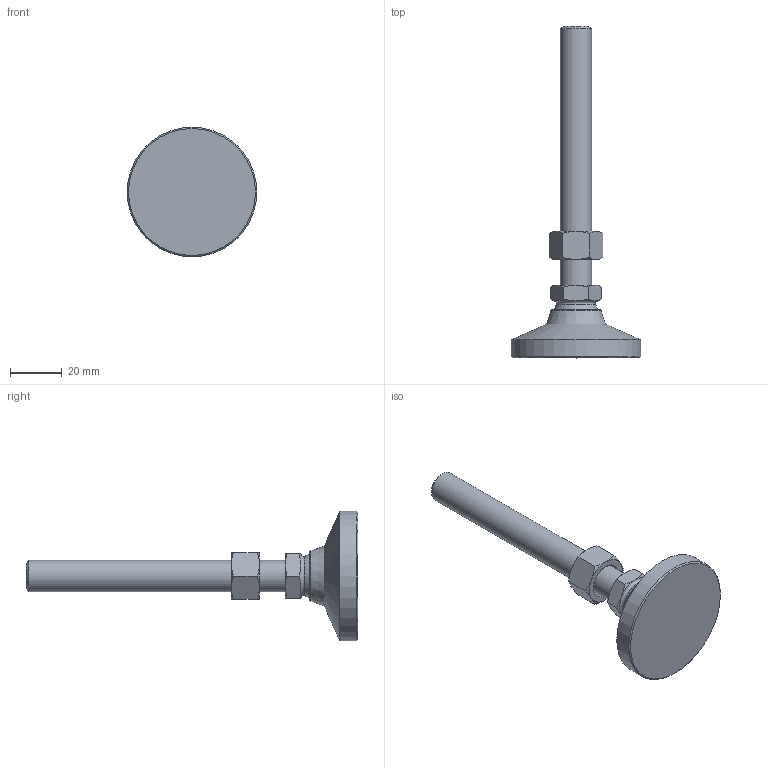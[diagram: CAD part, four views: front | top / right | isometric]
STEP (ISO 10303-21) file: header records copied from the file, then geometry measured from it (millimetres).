
FILE_DESCRIPTION( ( 'STEP AP214' ), ' ' );
FILE_NAME( 'O:/ganter_2015/teil_2/2_5/gn343_2/gn343_2_os/Levelling foot with threaded stud GN 343.2-50-M12-100-OS-(0).stp', '2015-10-26T09:08:07', ( '' ), ( '' ), ' ', 'PARTsolutions', ' ' );
FILE_SCHEMA( ( 'AUTOMOTIVE_DESIGN { 1 0 10303 214 1 1 1 1 }' ) );
Length unit declared in the file: millimetre
Products named in the file (4): Levelling foot with threaded stud GN 343.2-50-M12-100-OS-(0); _Levelling foot with threaded stud GN 343.2-50-M12-100-OS-(0)_foot; _Levelling foot with threaded stud GN 343.2-50-M12-100-OS-(0)_screw; _Stainless Steel-Levelling feet GN 343.2-50-M12-100-OS-(0)_nut
Assembly tree (3 placements, depth 2):
  Levelling foot with threaded stud GN 343.2-50-M12-100-OS-(0)
    _Levelling foot with threaded stud GN 343.2-50-M12-100-OS-(0)_foot
    _Levelling foot with threaded stud GN 343.2-50-M12-100-OS-(0)_screw
    _Stainless Steel-Levelling feet GN 343.2-50-M12-100-OS-(0)_nut
Bounding box: 50 x 128 x 50 mm (x, y, z)
Volume: 37776.2 mm3; surface area: 12286.1 mm2
Topology: 3 solids, 3 shells, 55 faces, 116 edges, 67 vertices
Faces by surface type: cone 30, plane 18, cylinder 3, torus 2, sphere 2
Full cylindrical faces by diameter (mm): 10.106 x1, 12 x1, 50 x1
Entity records: 2038 total; most frequent: CARTESIAN_POINT 495, DIRECTION 208, ORIENTED_EDGE 198, EDGE_CURVE 99, AXIS2_PLACEMENT_3D 98, EDGE_LOOP 70, VERTEX_POINT 65, FACE_OUTER_BOUND 60
